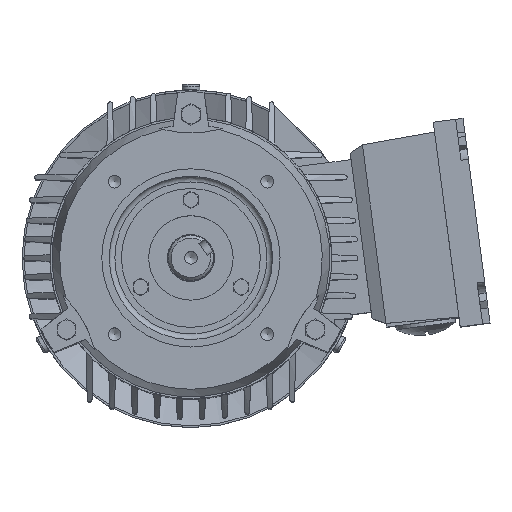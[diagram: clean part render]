
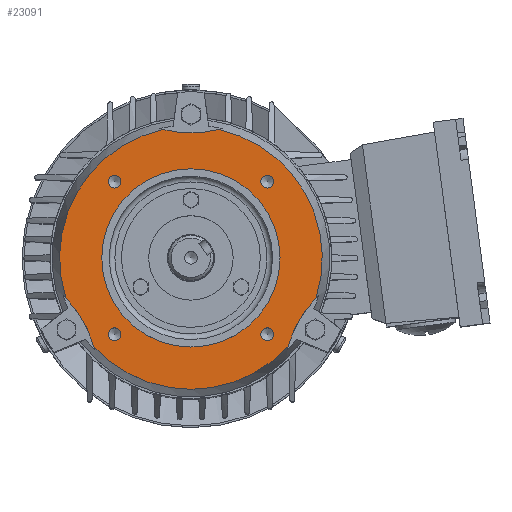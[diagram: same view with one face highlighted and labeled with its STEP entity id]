
A CAD part, top view. The second image highlights one B-rep face of the part: STEP entity #23091.
In plain terms, the highlighted planar face has unit normal (0, 0, 1) as drawn and (-1, 0, 0) by its records, which use the part's own axes.
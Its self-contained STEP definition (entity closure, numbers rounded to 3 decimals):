
#789=PLANE('',#25342);
#1028=FACE_BOUND('',#3969,.T.);
#1029=FACE_BOUND('',#3970,.T.);
#1030=FACE_BOUND('',#3971,.T.);
#1031=FACE_BOUND('',#3972,.T.);
#1032=FACE_BOUND('',#3973,.T.);
#2557=FACE_OUTER_BOUND('',#3968,.T.);
#3968=EDGE_LOOP('',(#20700,#20701,#20702,#20703,#20704,#20705));
#3969=EDGE_LOOP('',(#20706));
#3970=EDGE_LOOP('',(#20707));
#3971=EDGE_LOOP('',(#20708));
#3972=EDGE_LOOP('',(#20709));
#3973=EDGE_LOOP('',(#20710));
#9027=CIRCLE('',#25237,3.4);
#9029=CIRCLE('',#25241,3.4);
#9031=CIRCLE('',#25245,3.4);
#9033=CIRCLE('',#25249,3.4);
#9063=CIRCLE('',#25295,47.5);
#9070=CIRCLE('',#25306,70.);
#9076=CIRCLE('',#25315,70.);
#9090=CIRCLE('',#25343,60.);
#9091=CIRCLE('',#25344,60.);
#9092=CIRCLE('',#25345,70.);
#9093=CIRCLE('',#25346,60.);
#11089=VERTEX_POINT('',#116801);
#11092=VERTEX_POINT('',#116810);
#11095=VERTEX_POINT('',#116819);
#11098=VERTEX_POINT('',#116828);
#11129=VERTEX_POINT('',#116920);
#11141=VERTEX_POINT('',#116949);
#11142=VERTEX_POINT('',#116951);
#11144=VERTEX_POINT('',#116962);
#11146=VERTEX_POINT('',#116966);
#11181=VERTEX_POINT('',#117109);
#11182=VERTEX_POINT('',#117111);
#14279=EDGE_CURVE('',#11089,#11089,#9027,.T.);
#14283=EDGE_CURVE('',#11092,#11092,#9029,.T.);
#14287=EDGE_CURVE('',#11095,#11095,#9031,.T.);
#14291=EDGE_CURVE('',#11098,#11098,#9033,.T.);
#14336=EDGE_CURVE('',#11129,#11129,#9063,.T.);
#14349=EDGE_CURVE('',#11142,#11141,#9070,.T.);
#14358=EDGE_CURVE('',#11144,#11146,#9076,.T.);
#14412=EDGE_CURVE('',#11141,#11144,#9090,.T.);
#14413=EDGE_CURVE('',#11146,#11181,#9091,.T.);
#14414=EDGE_CURVE('',#11181,#11182,#9092,.T.);
#14415=EDGE_CURVE('',#11182,#11142,#9093,.T.);
#20700=ORIENTED_EDGE('',*,*,#14412,.T.);
#20701=ORIENTED_EDGE('',*,*,#14358,.T.);
#20702=ORIENTED_EDGE('',*,*,#14413,.T.);
#20703=ORIENTED_EDGE('',*,*,#14414,.T.);
#20704=ORIENTED_EDGE('',*,*,#14415,.T.);
#20705=ORIENTED_EDGE('',*,*,#14349,.T.);
#20706=ORIENTED_EDGE('',*,*,#14336,.F.);
#20707=ORIENTED_EDGE('',*,*,#14279,.F.);
#20708=ORIENTED_EDGE('',*,*,#14283,.F.);
#20709=ORIENTED_EDGE('',*,*,#14287,.F.);
#20710=ORIENTED_EDGE('',*,*,#14291,.F.);
#23091=ADVANCED_FACE('',(#2557,#1028,#1029,#1030,#1031,#1032),#789,.T.);
#25237=AXIS2_PLACEMENT_3D('',#116803,#31086,#31087);
#25241=AXIS2_PLACEMENT_3D('',#116812,#31096,#31097);
#25245=AXIS2_PLACEMENT_3D('',#116821,#31106,#31107);
#25249=AXIS2_PLACEMENT_3D('',#116830,#31116,#31117);
#25295=AXIS2_PLACEMENT_3D('',#116922,#31223,#31224);
#25306=AXIS2_PLACEMENT_3D('',#116952,#31251,#31252);
#25315=AXIS2_PLACEMENT_3D('',#116968,#31272,#31273);
#25342=AXIS2_PLACEMENT_3D('',#117107,#31356,#31357);
#25343=AXIS2_PLACEMENT_3D('',#117108,#31358,#31359);
#25344=AXIS2_PLACEMENT_3D('',#117110,#31360,#31361);
#25345=AXIS2_PLACEMENT_3D('',#117112,#31362,#31363);
#25346=AXIS2_PLACEMENT_3D('',#117113,#31364,#31365);
#31086=DIRECTION('center_axis',(-1.,0.,0.));
#31087=DIRECTION('ref_axis',(0.,0.,1.));
#31096=DIRECTION('center_axis',(-1.,0.,0.));
#31097=DIRECTION('ref_axis',(0.,0.,1.));
#31106=DIRECTION('center_axis',(-1.,0.,0.));
#31107=DIRECTION('ref_axis',(0.,0.,1.));
#31116=DIRECTION('center_axis',(-1.,0.,0.));
#31117=DIRECTION('ref_axis',(0.,0.,1.));
#31223=DIRECTION('center_axis',(-1.,0.,0.));
#31224=DIRECTION('ref_axis',(0.,-1.,0.));
#31251=DIRECTION('center_axis',(-1.,0.,0.));
#31252=DIRECTION('ref_axis',(0.,-1.,0.));
#31272=DIRECTION('center_axis',(-1.,0.,0.));
#31273=DIRECTION('ref_axis',(0.,-1.,0.));
#31356=DIRECTION('center_axis',(-1.,0.,0.));
#31357=DIRECTION('ref_axis',(0.,-1.,0.));
#31358=DIRECTION('center_axis',(1.,0.,0.));
#31359=DIRECTION('ref_axis',(0.,-1.,0.));
#31360=DIRECTION('center_axis',(1.,0.,0.));
#31361=DIRECTION('ref_axis',(0.,-1.,0.));
#31362=DIRECTION('center_axis',(-1.,0.,0.));
#31363=DIRECTION('ref_axis',(0.,-1.,0.));
#31364=DIRECTION('center_axis',(1.,0.,0.));
#31365=DIRECTION('ref_axis',(0.,-1.,0.));
#116801=CARTESIAN_POINT('',(3.006,40.659,37.259));
#116803=CARTESIAN_POINT('Origin',(3.006,40.659,40.659));
#116810=CARTESIAN_POINT('',(3.006,-40.659,37.259));
#116812=CARTESIAN_POINT('Origin',(3.006,-40.659,40.659));
#116819=CARTESIAN_POINT('',(3.006,-40.659,-44.059));
#116821=CARTESIAN_POINT('Origin',(3.006,-40.659,-40.659));
#116828=CARTESIAN_POINT('',(3.006,40.659,-44.059));
#116830=CARTESIAN_POINT('Origin',(3.006,40.659,-40.659));
#116920=CARTESIAN_POINT('',(3.006,47.5,0.));
#116922=CARTESIAN_POINT('Origin',(3.006,0.,
0.));
#116949=CARTESIAN_POINT('',(3.006,-47.128,51.759));
#116951=CARTESIAN_POINT('',(3.006,-47.128,-51.759));
#116952=CARTESIAN_POINT('Origin',(3.006,0.,
0.));
#116962=CARTESIAN_POINT('',(3.006,-21.261,66.693));
#116966=CARTESIAN_POINT('',(3.006,68.388,14.934));
#116968=CARTESIAN_POINT('Origin',(3.006,0.,
0.));
#117107=CARTESIAN_POINT('Origin',(3.006,-47.5,0.));
#117108=CARTESIAN_POINT('Origin',(3.006,-63.25,109.552));
#117109=CARTESIAN_POINT('',(3.006,68.388,-14.934));
#117110=CARTESIAN_POINT('Origin',(3.006,126.5,0.));
#117111=CARTESIAN_POINT('',(3.006,-21.261,-66.693));
#117112=CARTESIAN_POINT('Origin',(3.006,0.,
0.));
#117113=CARTESIAN_POINT('Origin',(3.006,-63.25,-109.552));
